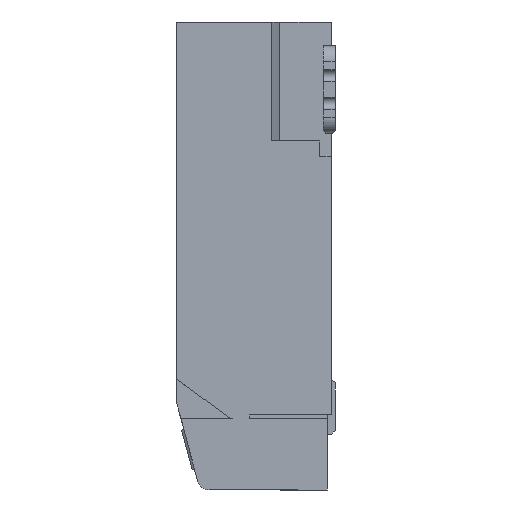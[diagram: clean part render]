
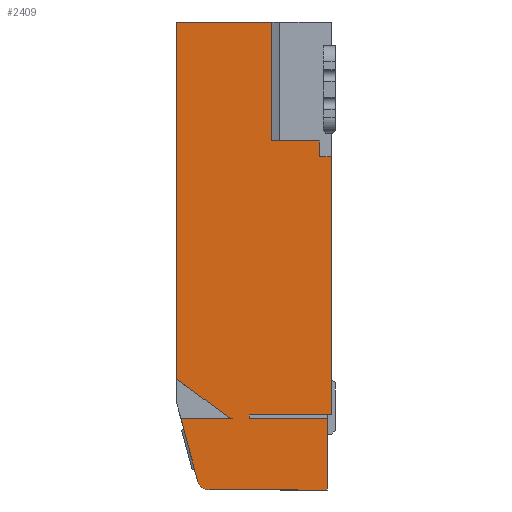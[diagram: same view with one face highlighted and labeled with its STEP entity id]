
A CAD part, left-side view. The second image highlights one B-rep face of the part: STEP entity #2409.
In plain terms, the highlighted planar face has unit normal (-1, 0, 0).
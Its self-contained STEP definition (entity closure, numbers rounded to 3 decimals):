
#13 = VERTEX_POINT ( 'NONE', #2877 ) ;
#270 = VERTEX_POINT ( 'NONE', #2966 ) ;
#293 = VERTEX_POINT ( 'NONE', #2989 ) ;
#319 = VERTEX_POINT ( 'NONE', #3015 ) ;
#328 = VERTEX_POINT ( 'NONE', #3024 ) ;
#783 = EDGE_LOOP ( 'NONE', ( #16382, #16385, #16296, #16344, #16341, #16346, #16288, #16332, #16336, #16339, #16338, #16387, #16309, #16310, #16311, #16312, #16381 ) ) ;
#868 = EDGE_CURVE ( 'NONE', #14356, #14324, #3102, .T. ) ;
#874 = EDGE_CURVE ( 'NONE', #14390, #14373, #3120, .T. ) ;
#2409 = ADVANCED_FACE ( 'NONE', ( #7166 ), #7167, .F. ) ;
#2877 = CARTESIAN_POINT ( 'NONE',  ( -14.25, 1.59, -0.7 ) ) ;
#2966 = CARTESIAN_POINT ( 'NONE',  ( -14.25, 0.8, 5.2 ) ) ;
#2989 = CARTESIAN_POINT ( 'NONE',  ( -14.25, 0.05, 3.5 ) ) ;
#3015 = CARTESIAN_POINT ( 'NONE',  ( -14.25, 2., 5.2 ) ) ;
#3024 = CARTESIAN_POINT ( 'NONE',  ( -14.25, 0.05, 0.248 ) ) ;
#3102 = LINE ( 'NONE', #3103, #14217 ) ;
#3103 = CARTESIAN_POINT ( 'NONE',  ( -14.25, 0.1, -0.7 ) ) ;
#3104 = DIRECTION ( 'NONE',  ( 0., 0., -1. ) ) ;
#3120 = LINE ( 'NONE', #3121, #14238 ) ;
#3121 = CARTESIAN_POINT ( 'NONE',  ( -14.25, 1.946, 0.2 ) ) ;
#3122 = DIRECTION ( 'NONE',  ( 0., 0.259, 0.966 ) ) ;
#5511 = EDGE_CURVE ( 'NONE', #319, #270, #7584, .T. ) ;
#5732 = EDGE_CURVE ( 'NONE', #14373, #14796, #8363, .T. ) ;
#5743 = EDGE_CURVE ( 'NONE', #14742, #293, #8396, .T. ) ;
#5746 = EDGE_CURVE ( 'NONE', #14753, #14742, #8405, .T. ) ;
#6060 = AXIS2_PLACEMENT_3D ( 'NONE', #7158, #7169, #7170 ) ;
#6073 = VECTOR ( 'NONE', #7623, 1000. ) ;
#6296 = VECTOR ( 'NONE', #8366, 1000. ) ;
#6307 = VECTOR ( 'NONE', #8398, 1000. ) ;
#6310 = VECTOR ( 'NONE', #8407, 1000. ) ;
#6311 = VECTOR ( 'NONE', #8411, 1000. ) ;
#7158 = CARTESIAN_POINT ( 'NONE',  ( -14.25, 0., 5.2 ) ) ;
#7166 = FACE_OUTER_BOUND ( 'NONE', #783, .T. ) ;
#7167 = PLANE ( 'NONE',  #6060 ) ;
#7169 = DIRECTION ( 'NONE',  ( 1., 0., 0. ) ) ;
#7170 = DIRECTION ( 'NONE',  ( 0., 0., -1. ) ) ;
#7584 = LINE ( 'NONE', #7621, #6073 ) ;
#7621 = CARTESIAN_POINT ( 'NONE',  ( -14.25, 2., 5.2 ) ) ;
#7623 = DIRECTION ( 'NONE',  ( 0., -1., 0. ) ) ;
#8363 = LINE ( 'NONE', #8365, #6296 ) ;
#8365 = CARTESIAN_POINT ( 'NONE',  ( -14.25, 1.946, 0.2 ) ) ;
#8366 = DIRECTION ( 'NONE',  ( 0., -1., 0. ) ) ;
#8396 = LINE ( 'NONE', #8397, #6307 ) ;
#8397 = CARTESIAN_POINT ( 'NONE',  ( -14.25, 0.05, 3.5 ) ) ;
#8398 = DIRECTION ( 'NONE',  ( 0., -1., 0. ) ) ;
#8405 = LINE ( 'NONE', #8406, #6310 ) ;
#8406 = CARTESIAN_POINT ( 'NONE',  ( -14.25, 0.2, 3.5 ) ) ;
#8407 = DIRECTION ( 'NONE',  ( 0., 0., -1. ) ) ;
#8408 = LINE ( 'NONE', #8410, #6311 ) ;
#8410 = CARTESIAN_POINT ( 'NONE',  ( -14.25, 1.205, 0.248 ) ) ;
#8411 = DIRECTION ( 'NONE',  ( 0., -1., 0. ) ) ;
#8527 = EDGE_CURVE ( 'NONE', #14810, #328, #8408, .T. ) ;
#8599 = EDGE_CURVE ( 'NONE', #14790, #14796, #8838, .T. ) ;
#8601 = EDGE_CURVE ( 'NONE', #14371, #14790, #9510, .T. ) ;
#8602 = EDGE_CURVE ( 'NONE', #14746, #270, #9513, .T. ) ;
#8605 = EDGE_CURVE ( 'NONE', #14746, #14753, #9522, .T. ) ;
#8606 = EDGE_CURVE ( 'NONE', #14727, #14356, #9525, .T. ) ;
#8607 = EDGE_CURVE ( 'NONE', #14810, #14727, #9504, .T. ) ;
#8838 = CIRCLE ( 'NONE', #8840, 0.1 ) ;
#8840 = AXIS2_PLACEMENT_3D ( 'NONE', #9506, #9507, #9508 ) ;
#8841 = VECTOR ( 'NONE', #9512, 1000. ) ;
#8842 = VECTOR ( 'NONE', #9515, 1000. ) ;
#8844 = VECTOR ( 'NONE', #9530, 1000. ) ;
#8845 = VECTOR ( 'NONE', #9524, 1000. ) ;
#8846 = VECTOR ( 'NONE', #9528, 1000. ) ;
#9504 = LINE ( 'NONE', #9529, #8844 ) ;
#9506 = CARTESIAN_POINT ( 'NONE',  ( -14.25, 1.29, 0.3 ) ) ;
#9507 = DIRECTION ( 'NONE',  ( -1., 0., 0. ) ) ;
#9508 = DIRECTION ( 'NONE',  ( 0., 0., 1. ) ) ;
#9510 = LINE ( 'NONE', #9511, #8841 ) ;
#9511 = CARTESIAN_POINT ( 'NONE',  ( -14.25, 1.932, 0.65 ) ) ;
#9512 = DIRECTION ( 'NONE',  ( 0., -0.804, -0.594 ) ) ;
#9513 = LINE ( 'NONE', #9514, #8842 ) ;
#9514 = CARTESIAN_POINT ( 'NONE',  ( -14.25, 0.8, 3.7 ) ) ;
#9515 = DIRECTION ( 'NONE',  ( 0., 0., 1. ) ) ;
#9522 = LINE ( 'NONE', #9523, #8845 ) ;
#9523 = CARTESIAN_POINT ( 'NONE',  ( -14.25, 0.05, 3.7 ) ) ;
#9524 = DIRECTION ( 'NONE',  ( 0., -1., 0. ) ) ;
#9525 = LINE ( 'NONE', #9527, #8846 ) ;
#9527 = CARTESIAN_POINT ( 'NONE',  ( -14.25, 1.097, 0.2 ) ) ;
#9528 = DIRECTION ( 'NONE',  ( 0., -1., 0. ) ) ;
#9529 = CARTESIAN_POINT ( 'NONE',  ( -14.25, 1.085, 0.2 ) ) ;
#9530 = DIRECTION ( 'NONE',  ( 0., 0., -1. ) ) ;
#11026 = CARTESIAN_POINT ( 'NONE',  ( -14.25, 0.1, -0.7 ) ) ;
#11058 = CARTESIAN_POINT ( 'NONE',  ( -14.25, 0.1, 0.2 ) ) ;
#11073 = CARTESIAN_POINT ( 'NONE',  ( -14.25, 2., 0.7 ) ) ;
#11075 = CARTESIAN_POINT ( 'NONE',  ( -14.25, 1.946, 0.2 ) ) ;
#11092 = CARTESIAN_POINT ( 'NONE',  ( -14.25, 1.735, -0.589 ) ) ;
#11141 = CARTESIAN_POINT ( 'NONE',  ( -14.25, 1.085, 0.2 ) ) ;
#11156 = CARTESIAN_POINT ( 'NONE',  ( -14.25, 0.2, 3.5 ) ) ;
#11160 = CARTESIAN_POINT ( 'NONE',  ( -14.25, 0.8, 3.7 ) ) ;
#11167 = CARTESIAN_POINT ( 'NONE',  ( -14.25, 0.2, 3.7 ) ) ;
#11204 = CARTESIAN_POINT ( 'NONE',  ( -14.25, 1.349, 0.22 ) ) ;
#11210 = CARTESIAN_POINT ( 'NONE',  ( -14.25, 1.29, 0.2 ) ) ;
#11224 = CARTESIAN_POINT ( 'NONE',  ( -14.25, 1.085, 0.248 ) ) ;
#12902 = VECTOR ( 'NONE', #13479, 1000. ) ;
#12906 = CIRCLE ( 'NONE', #12908, 0.15 ) ;
#12908 = AXIS2_PLACEMENT_3D ( 'NONE', #13491, #13492, #13493 ) ;
#13055 = VECTOR ( 'NONE', #13930, 1000. ) ;
#13101 = VECTOR ( 'NONE', #14151, 1000. ) ;
#13477 = LINE ( 'NONE', #13478, #12902 ) ;
#13478 = CARTESIAN_POINT ( 'NONE',  ( -14.25, 1.705, -0.7 ) ) ;
#13479 = DIRECTION ( 'NONE',  ( 0., 1., 0. ) ) ;
#13491 = CARTESIAN_POINT ( 'NONE',  ( -14.25, 1.59, -0.55 ) ) ;
#13492 = DIRECTION ( 'NONE',  ( -1., 0., 0. ) ) ;
#13493 = DIRECTION ( 'NONE',  ( 0., 1., 0. ) ) ;
#13928 = LINE ( 'NONE', #13929, #13055 ) ;
#13929 = CARTESIAN_POINT ( 'NONE',  ( -14.25, 2., 0.2 ) ) ;
#13930 = DIRECTION ( 'NONE',  ( 0., 0., 1. ) ) ;
#14149 = LINE ( 'NONE', #14150, #13101 ) ;
#14150 = CARTESIAN_POINT ( 'NONE',  ( -14.25, 0.05, 0.65 ) ) ;
#14151 = DIRECTION ( 'NONE',  ( 0., 0., -1. ) ) ;
#14217 = VECTOR ( 'NONE', #3104, 1000. ) ;
#14238 = VECTOR ( 'NONE', #3122, 1000. ) ;
#14324 = VERTEX_POINT ( 'NONE', #11026 ) ;
#14356 = VERTEX_POINT ( 'NONE', #11058 ) ;
#14371 = VERTEX_POINT ( 'NONE', #11073 ) ;
#14373 = VERTEX_POINT ( 'NONE', #11075 ) ;
#14390 = VERTEX_POINT ( 'NONE', #11092 ) ;
#14727 = VERTEX_POINT ( 'NONE', #11141 ) ;
#14742 = VERTEX_POINT ( 'NONE', #11156 ) ;
#14746 = VERTEX_POINT ( 'NONE', #11160 ) ;
#14753 = VERTEX_POINT ( 'NONE', #11167 ) ;
#14790 = VERTEX_POINT ( 'NONE', #11204 ) ;
#14796 = VERTEX_POINT ( 'NONE', #11210 ) ;
#14810 = VERTEX_POINT ( 'NONE', #11224 ) ;
#16288 = ORIENTED_EDGE ( 'NONE', *, *, #5511, .F. ) ;
#16296 = ORIENTED_EDGE ( 'NONE', *, *, #5743, .F. ) ;
#16309 = ORIENTED_EDGE ( 'NONE', *, *, #16584, .T. ) ;
#16310 = ORIENTED_EDGE ( 'NONE', *, *, #16580, .F. ) ;
#16311 = ORIENTED_EDGE ( 'NONE', *, *, #868, .F. ) ;
#16312 = ORIENTED_EDGE ( 'NONE', *, *, #8606, .F. ) ;
#16332 = ORIENTED_EDGE ( 'NONE', *, *, #16731, .F. ) ;
#16336 = ORIENTED_EDGE ( 'NONE', *, *, #8601, .T. ) ;
#16338 = ORIENTED_EDGE ( 'NONE', *, *, #5732, .F. ) ;
#16339 = ORIENTED_EDGE ( 'NONE', *, *, #8599, .T. ) ;
#16341 = ORIENTED_EDGE ( 'NONE', *, *, #8605, .F. ) ;
#16344 = ORIENTED_EDGE ( 'NONE', *, *, #5746, .F. ) ;
#16346 = ORIENTED_EDGE ( 'NONE', *, *, #8602, .T. ) ;
#16381 = ORIENTED_EDGE ( 'NONE', *, *, #8607, .F. ) ;
#16382 = ORIENTED_EDGE ( 'NONE', *, *, #8527, .T. ) ;
#16385 = ORIENTED_EDGE ( 'NONE', *, *, #17764, .F. ) ;
#16387 = ORIENTED_EDGE ( 'NONE', *, *, #874, .F. ) ;
#16580 = EDGE_CURVE ( 'NONE', #14324, #13, #13477, .T. ) ;
#16584 = EDGE_CURVE ( 'NONE', #14390, #13, #12906, .T. ) ;
#16731 = EDGE_CURVE ( 'NONE', #14371, #319, #13928, .T. ) ;
#17764 = EDGE_CURVE ( 'NONE', #293, #328, #14149, .T. ) ;
